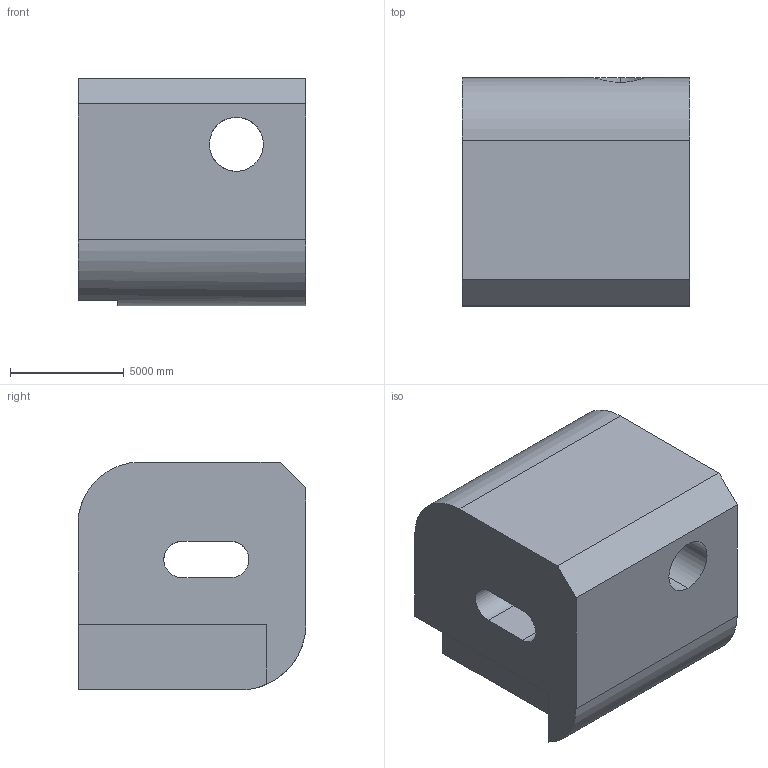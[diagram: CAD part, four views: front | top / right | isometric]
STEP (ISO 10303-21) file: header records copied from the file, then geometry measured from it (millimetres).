
FILE_DESCRIPTION (( 'STEP AP203' ), '1' );
FILE_NAME ('682.STEP', '2022-08-04T15:36:54', ( 'user' ), ( '' ), 'SwSTEP 2.0', 'SolidWorks 2021', '' );
FILE_SCHEMA (( 'CONFIG_CONTROL_DESIGN' ));
Length unit declared in the file: centimetre
Products named in the file (1): 682
Bounding box: 10000 x 10000 x 10000 mm (x, y, z)
Volume: 818479685324.3 mm3; surface area: 709163745.6 mm2
Topology: 1 solids, 1 shells, 23 faces, 69 edges, 46 vertices
Faces by surface type: plane 17, cylinder 6
Entity records: 1331 total; most frequent: CARTESIAN_POINT 617, ORIENTED_EDGE 138, DIRECTION 124, EDGE_CURVE 69, LINE 50, VECTOR 50, VERTEX_POINT 46, AXIS2_PLACEMENT_3D 37
